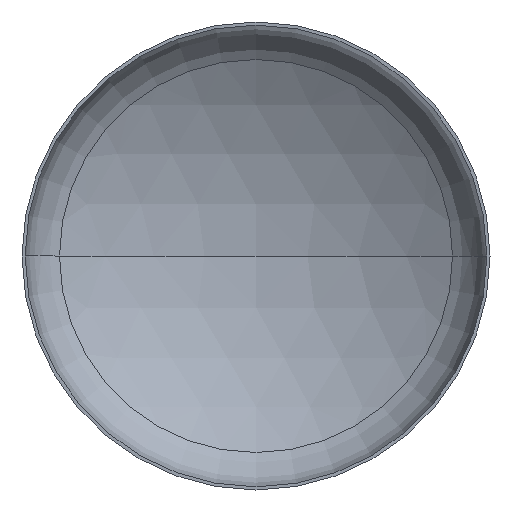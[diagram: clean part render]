
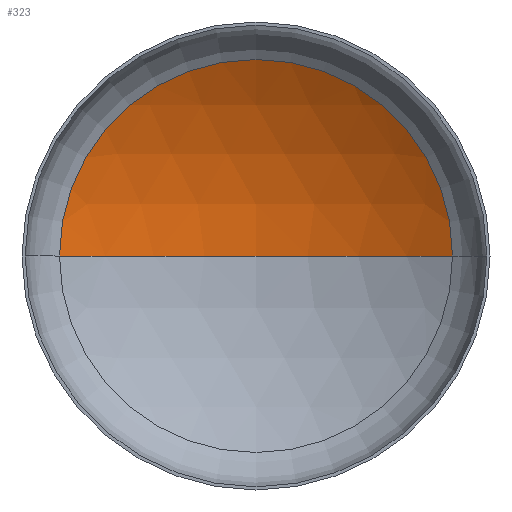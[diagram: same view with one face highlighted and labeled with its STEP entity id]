
A CAD part, front view. The second image highlights one B-rep face of the part: STEP entity #323.
In plain terms, the highlighted spherical face has radius 4800 mm.
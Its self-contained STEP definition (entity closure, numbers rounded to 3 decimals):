
#18 = CARTESIAN_POINT ( 'NONE',  ( 0., -3168.252, 0. ) ) ;
#21 = ORIENTED_EDGE ( 'NONE', *, *, #356, .T. ) ;
#23 = EDGE_LOOP ( 'NONE', ( #167, #38, #21 ) ) ;
#38 = ORIENTED_EDGE ( 'NONE', *, *, #337, .T. ) ;
#39 = VERTEX_POINT ( 'NONE', #239 ) ;
#40 = VERTEX_POINT ( 'NONE', #236 ) ;
#56 = DIRECTION ( 'NONE',  ( 1., 0., 0. ) ) ;
#71 = SPHERICAL_SURFACE ( 'NONE', #272, 4800. ) ;
#76 = CARTESIAN_POINT ( 'NONE',  ( 0., -3168.252, 0. ) ) ;
#80 = DIRECTION ( 'NONE',  ( 0., 0., 1. ) ) ;
#81 = DIRECTION ( 'NONE',  ( -1., 0., 0. ) ) ;
#155 = CIRCLE ( 'NONE', #225, 4800. ) ;
#167 = ORIENTED_EDGE ( 'NONE', *, *, #319, .F. ) ;
#169 = DIRECTION ( 'NONE',  ( 0., -1., 0. ) ) ;
#201 = DIRECTION ( 'NONE',  ( -1., 0., 0. ) ) ;
#214 = DIRECTION ( 'NONE',  ( 0., 0., -1. ) ) ;
#215 = CARTESIAN_POINT ( 'NONE',  ( 0., 1631.748, 0. ) ) ;
#223 = CIRCLE ( 'NONE', #252, 4800. ) ;
#225 = AXIS2_PLACEMENT_3D ( 'NONE', #76, #80, #56 ) ;
#236 = CARTESIAN_POINT ( 'NONE',  ( -2519.535, 917.325, 0. ) ) ;
#239 = CARTESIAN_POINT ( 'NONE',  ( 2519.535, 917.325, 0. ) ) ;
#246 = CARTESIAN_POINT ( 'NONE',  ( 0., -3168.252, 0. ) ) ;
#252 = AXIS2_PLACEMENT_3D ( 'NONE', #18, #367, #201 ) ;
#272 = AXIS2_PLACEMENT_3D ( 'NONE', #246, #214, #81 ) ;
#293 = CIRCLE ( 'NONE', #308, 2519.535 ) ;
#308 = AXIS2_PLACEMENT_3D ( 'NONE', #342, #169, #369 ) ;
#319 = EDGE_CURVE ( 'NONE', #338, #40, #155, .T. ) ;
#323 = ADVANCED_FACE ( 'NONE', ( #372 ), #71, .F. ) ;
#337 = EDGE_CURVE ( 'NONE', #338, #39, #223, .T. ) ;
#338 = VERTEX_POINT ( 'NONE', #215 ) ;
#342 = CARTESIAN_POINT ( 'NONE',  ( 0., 917.325, 0. ) ) ;
#356 = EDGE_CURVE ( 'NONE', #39, #40, #293, .T. ) ;
#367 = DIRECTION ( 'NONE',  ( 0., 0., -1. ) ) ;
#369 = DIRECTION ( 'NONE',  ( 1., 0., 0. ) ) ;
#372 = FACE_OUTER_BOUND ( 'NONE', #23, .T. ) ;
